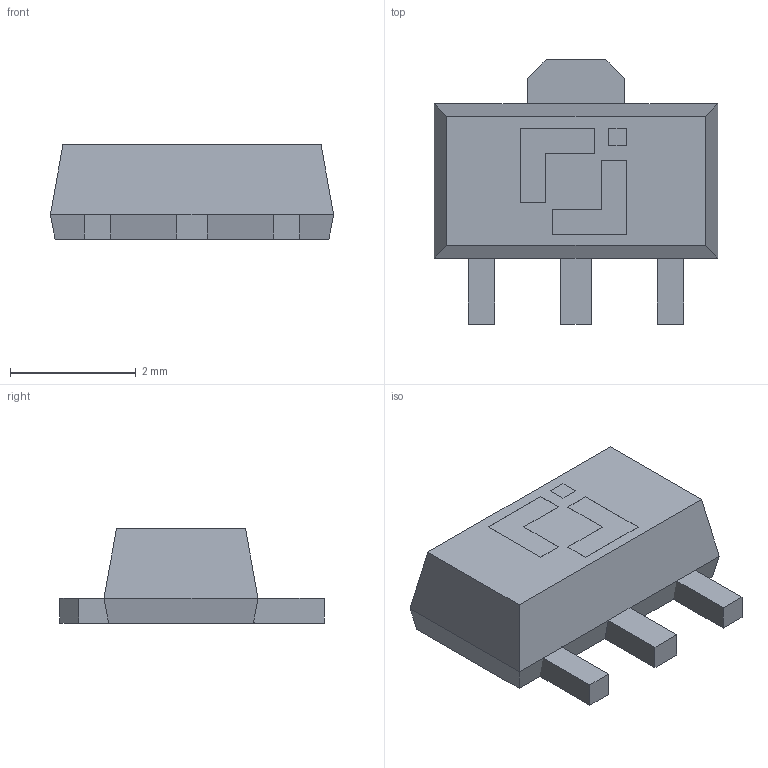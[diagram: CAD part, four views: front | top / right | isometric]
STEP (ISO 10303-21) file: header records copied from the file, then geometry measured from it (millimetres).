
FILE_DESCRIPTION(('HOOPS Exchange Step'),'2;1');
FILE_NAME('C:\Users\JSCJ\AppData\Local\Packages\Shapr3D.Shapr3D_dvv5p1vgwv6mp\TempState\export\temp_export','2025-12-04T10:42:21+08:00',('JSCJ'),('Shapr3D Limited'),'HOOPS Exchange 2025.7','Shapr3D','Authorized');
FILE_SCHEMA( ('AP242_MANAGED_MODEL_BASED_3D_ENGINEERING_MIM_LF {1 0 10303 442 1 1 4}') );
Length unit declared in the file: millimetre
Products named in the file (1): root
Bounding box: 4.5 x 4.2 x 1.5 mm (x, y, z)
Volume: 15.9 mm3; surface area: 59.1 mm2
Topology: 4 solids, 4 shells, 75 faces, 184 edges, 120 vertices
Faces by surface type: plane 71, cylinder 4
Entity records: 2219 total; most frequent: CARTESIAN_POINT 381, ORIENTED_EDGE 368, DIRECTION 346, EDGE_CURVE 184, VECTOR 176, LINE 176, VERTEX_POINT 120, AXIS2_PLACEMENT_3D 85
